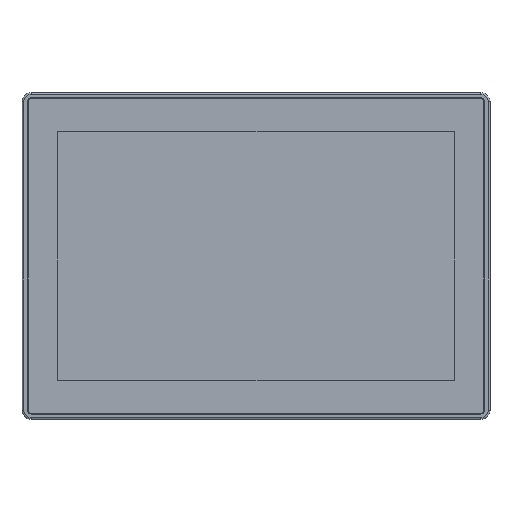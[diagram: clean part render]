
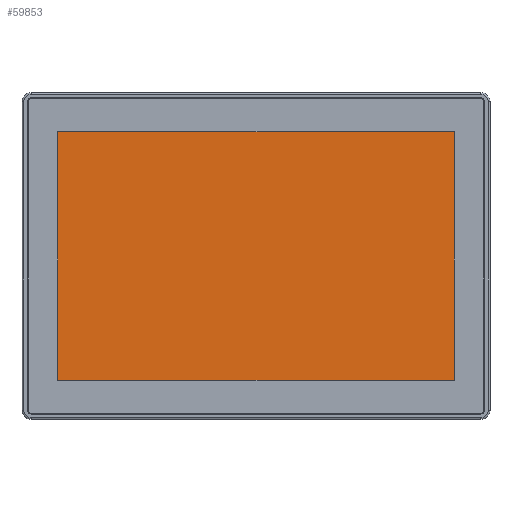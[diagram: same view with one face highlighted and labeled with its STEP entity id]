
A CAD part, top view. The second image highlights one B-rep face of the part: STEP entity #59853.
In plain terms, the highlighted planar face has unit normal (0, 0, 1).
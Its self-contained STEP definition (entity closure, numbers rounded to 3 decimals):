
#3079 = DIRECTION ( 'NONE',  ( 0., 1., 0. ) ) ;
#3372 = VECTOR ( 'NONE', #58917, 1000. ) ;
#4965 = EDGE_CURVE ( 'NONE', #15615, #44786, #45518, .T. ) ;
#7413 = CARTESIAN_POINT ( 'NONE',  ( -108.79, -68.18, -0.05 ) ) ;
#10333 = ORIENTED_EDGE ( 'NONE', *, *, #82080, .T. ) ;
#11677 = VERTEX_POINT ( 'NONE', #72929 ) ;
#12954 = VECTOR ( 'NONE', #16595, 1000. ) ;
#13095 = PLANE ( 'NONE',  #60682 ) ;
#14676 = CARTESIAN_POINT ( 'NONE',  ( -108.79, 68.18, -0.05 ) ) ;
#15615 = VERTEX_POINT ( 'NONE', #14676 ) ;
#16595 = DIRECTION ( 'NONE',  ( -1., 0., 0. ) ) ;
#25398 = CARTESIAN_POINT ( 'NONE',  ( -108.79, 68.18, -0.05 ) ) ;
#28976 = ORIENTED_EDGE ( 'NONE', *, *, #82543, .T. ) ;
#32356 = LINE ( 'NONE', #25398, #12954 ) ;
#35677 = CARTESIAN_POINT ( 'NONE',  ( 108.79, 68.18, -0.05 ) ) ;
#36745 = VECTOR ( 'NONE', #3079, 1000. ) ;
#44786 = VERTEX_POINT ( 'NONE', #7413 ) ;
#45518 = LINE ( 'NONE', #65919, #3372 ) ;
#46392 = ORIENTED_EDGE ( 'NONE', *, *, #52710, .T. ) ;
#52710 = EDGE_CURVE ( 'NONE', #55390, #15615, #32356, .T. ) ;
#55390 = VERTEX_POINT ( 'NONE', #35677 ) ;
#58917 = DIRECTION ( 'NONE',  ( 0., -1., 0. ) ) ;
#59853 = ADVANCED_FACE ( 'NONE', ( #83915 ), #13095, .T. ) ;
#60682 = AXIS2_PLACEMENT_3D ( 'NONE', #77923, #72737, #72277 ) ;
#61516 = LINE ( 'NONE', #75905, #64976 ) ;
#63804 = ORIENTED_EDGE ( 'NONE', *, *, #4965, .T. ) ;
#64976 = VECTOR ( 'NONE', #75451, 1000. ) ;
#65919 = CARTESIAN_POINT ( 'NONE',  ( -108.79, 68.18, -0.05 ) ) ;
#72277 = DIRECTION ( 'NONE',  ( 1., 0., 0. ) ) ;
#72737 = DIRECTION ( 'NONE',  ( 0., 0., 1. ) ) ;
#72929 = CARTESIAN_POINT ( 'NONE',  ( 108.79, -68.18, -0.05 ) ) ;
#73473 = CARTESIAN_POINT ( 'NONE',  ( 108.79, 68.18, -0.05 ) ) ;
#73927 = LINE ( 'NONE', #73473, #36745 ) ;
#75451 = DIRECTION ( 'NONE',  ( 1., 0., 0. ) ) ;
#75905 = CARTESIAN_POINT ( 'NONE',  ( -108.79, -68.18, -0.05 ) ) ;
#77923 = CARTESIAN_POINT ( 'NONE',  ( -0.3, 0., -0.05 ) ) ;
#82080 = EDGE_CURVE ( 'NONE', #44786, #11677, #61516, .T. ) ;
#82543 = EDGE_CURVE ( 'NONE', #11677, #55390, #73927, .T. ) ;
#83294 = EDGE_LOOP ( 'NONE', ( #63804, #10333, #28976, #46392 ) ) ;
#83915 = FACE_OUTER_BOUND ( 'NONE', #83294, .T. ) ;
